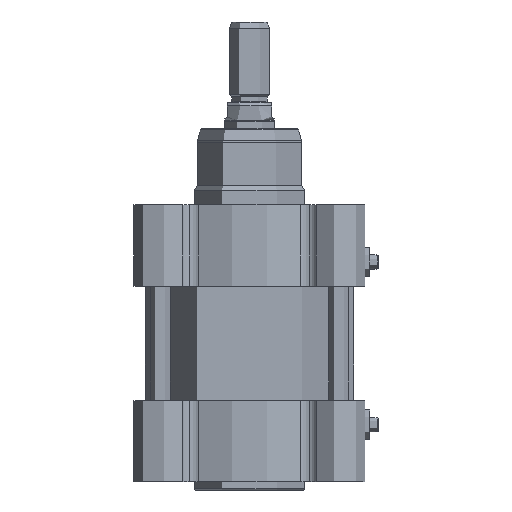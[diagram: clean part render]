
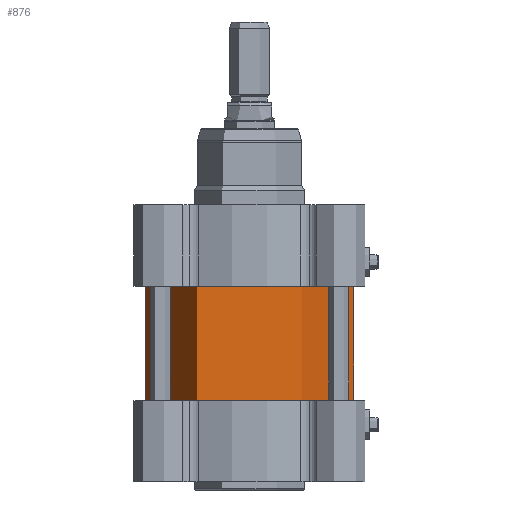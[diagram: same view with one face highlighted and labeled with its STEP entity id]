
A CAD part, front view. The second image highlights one B-rep face of the part: STEP entity #876.
In plain terms, the highlighted cylindrical face has radius 52 mm (diameter 104 mm), a partial arc.
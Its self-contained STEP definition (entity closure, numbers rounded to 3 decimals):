
#876=ADVANCED_FACE('',(#2321),#2322,.T.);
#2321=FACE_OUTER_BOUND('',#4450,.T.);
#2322=CYLINDRICAL_SURFACE('',#4451,52.0);
#4450=EDGE_LOOP('',(#6592,#6593,#6594,#6595));
#4451=AXIS2_PLACEMENT_3D('',#6596,#6597,#6598);
#6592=ORIENTED_EDGE('',*,*,#12529,.F.);
#6593=ORIENTED_EDGE('',*,*,#12527,.F.);
#6594=ORIENTED_EDGE('',*,*,#12530,.F.);
#6595=ORIENTED_EDGE('',*,*,#12531,.F.);
#6596=CARTESIAN_POINT('',(0.0,0.0,0.0));
#6597=DIRECTION('',(-0.0,0.0,-1.0));
#6598=DIRECTION('',(-1.0,0.0,0.0));
#12527=EDGE_CURVE('0:62',#14766,#14762,#14768,.T.);
#12529=EDGE_CURVE('',#14762,#14770,#14771,.T.);
#12530=EDGE_CURVE('',#14772,#14766,#14773,.T.);
#12531=EDGE_CURVE('',#14770,#14772,#14774,.T.);
#14762=VERTEX_POINT('',#17937);
#14766=VERTEX_POINT('',#17942);
#14768=CIRCLE('',#17945,52.0);
#14770=VERTEX_POINT('',#17947);
#14771=LINE('',#17948,#17949);
#14772=VERTEX_POINT('',#17950);
#14773=LINE('',#17951,#17952);
#14774=CIRCLE('',#17953,52.0);
#17937=CARTESIAN_POINT('',(-52.0,0.,0.2));
#17942=CARTESIAN_POINT('',(52.0,0.,0.2));
#17945=AXIS2_PLACEMENT_3D('',#23156,#23157,#23158);
#17947=CARTESIAN_POINT('',(-52.0,0.,56.8));
#17948=CARTESIAN_POINT('',(-52.0,0.,28.5));
#17949=VECTOR('',#23159,1.0);
#17950=CARTESIAN_POINT('',(52.0,0.,56.8));
#17951=CARTESIAN_POINT('',(52.0,0.,28.5));
#17952=VECTOR('',#23160,1.0);
#17953=AXIS2_PLACEMENT_3D('',#23161,#23162,#23163);
#23156=CARTESIAN_POINT('',(0.0,0.0,0.2));
#23157=DIRECTION('',(0.0,0.0,-1.0));
#23158=DIRECTION('',(-1.0,0.0,0.0));
#23159=DIRECTION('',(-0.0,-0.0,1.0));
#23160=DIRECTION('',(-0.0,-0.0,-1.0));
#23161=CARTESIAN_POINT('',(0.0,0.0,56.8));
#23162=DIRECTION('',(0.0,0.0,1.0));
#23163=DIRECTION('',(-1.0,0.0,0.0));
